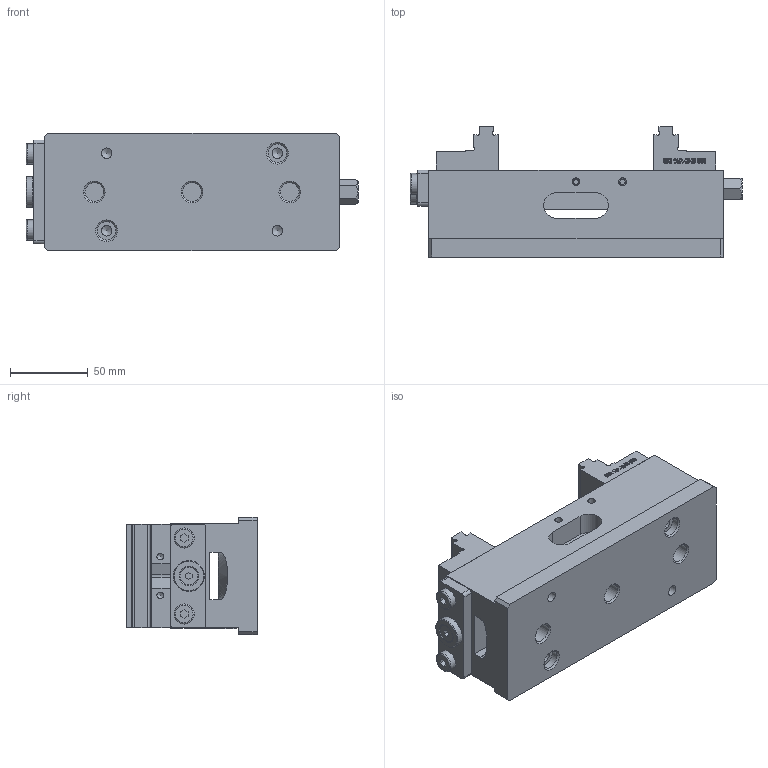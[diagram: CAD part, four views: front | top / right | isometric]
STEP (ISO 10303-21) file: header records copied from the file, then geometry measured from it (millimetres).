
FILE_DESCRIPTION (( 'STEP AP214' ), '1' );
FILE_NAME ('3D-6921528021155.STEP', '2023-12-22T07:21:16', ( '' ), ( '' ), 'SwSTEP 2.0', 'SolidWorks 2021', '' );
FILE_SCHEMA (( 'AUTOMOTIVE_DESIGN' ));
Length unit declared in the file: millimetre
Products named in the file (4): 3D-6921528021155; 3D-6921524030000; 3D-692152802x155; 3D-6921524040000
Assembly tree (3 placements, depth 2):
  3D-6921528021155
    3D-692152802x155
    3D-6921524030000
    3D-6921524040000
Bounding box: 214 x 84 x 76 mm (x, y, z)
Volume: 769737 mm3; surface area: 107211.1 mm2
Topology: 3 solids, 3 shells, 1289 faces, 3409 edges, 2261 vertices
Faces by surface type: plane 696, bspline 510, cylinder 49, cone 32, torus 2
Full cylindrical faces by diameter (mm): 4.2 x8, 5 x6, 6.8 x4, 11.6 x1, 12 x5, 13 x2, 17.5 x1, 19 x3, 20 x1
Entity records: 65401 total; most frequent: CARTESIAN_POINT 36785, ORIENTED_EDGE 6642, DIRECTION 3990, EDGE_CURVE 3321, VERTEX_POINT 2238, VECTOR 2168, LINE 2168, EDGE_LOOP 1509
